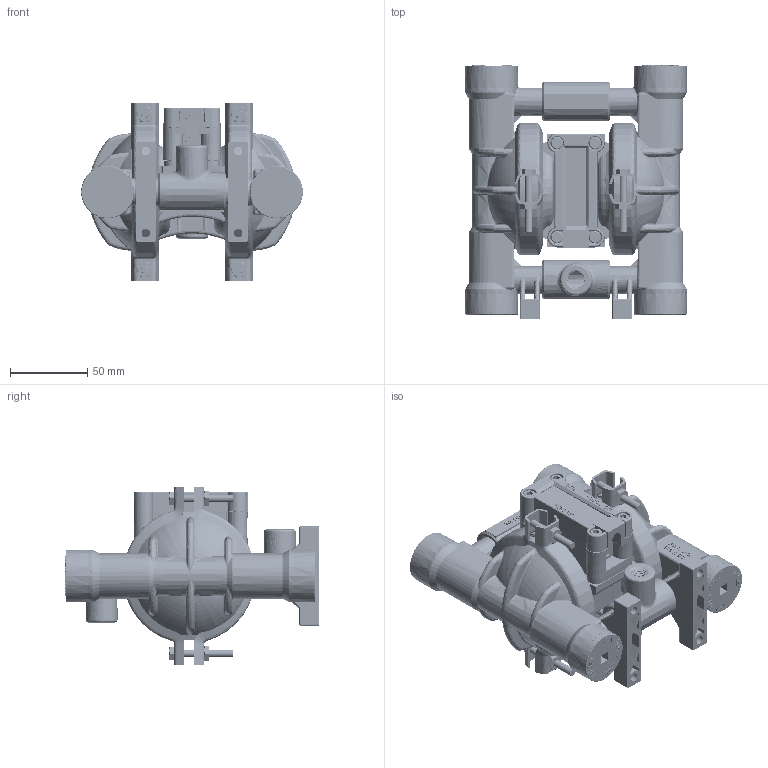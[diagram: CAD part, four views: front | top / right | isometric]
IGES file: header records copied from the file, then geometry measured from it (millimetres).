
Start section:  PTC IGES file: p025_plastic.igs
Global section: file name: p025_plastic.igs; native system: Pro/ENGINEER by Parametric Technology Corporation; preprocessor: 2008400; author: Nathan.Hale; organization: Unknown; date: 20091222.102555; units: inch
Bounding box: 143.76 x 164.72 x 115.9 mm (x, y, z)
Volume: 539316.4 mm3; surface area: 214524.4 mm2
Topology: 3 solids, 3 shells, 7209 faces, 19649 edges, 12758 vertices
Faces by surface type: bspline 5864, revolution 1345
